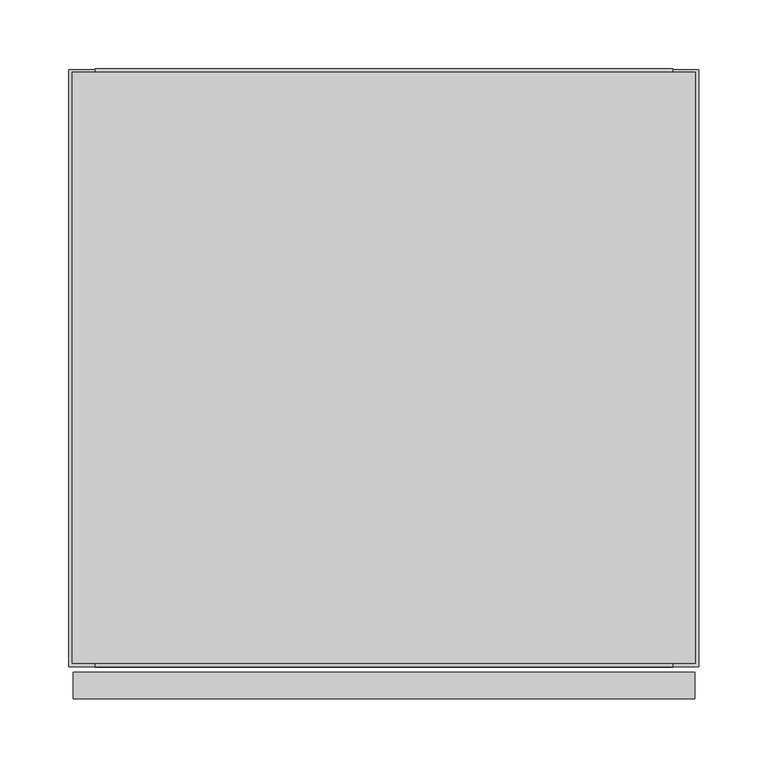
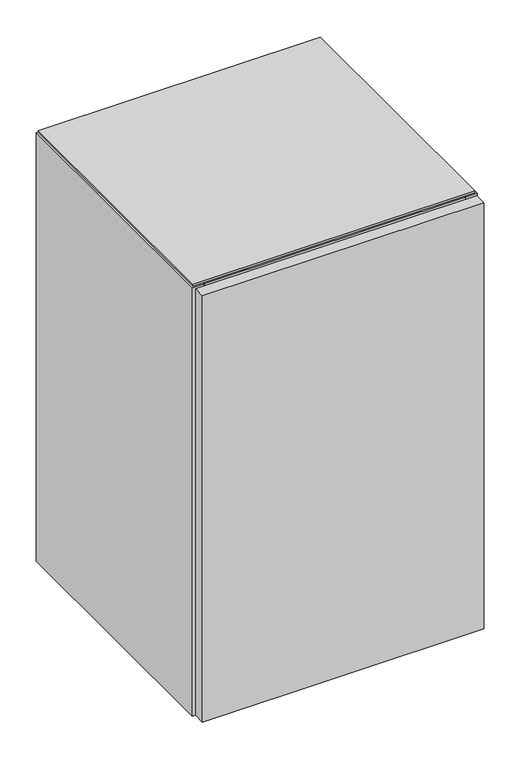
"""IFC4 building model written with IfcOpenShell, lengths in millimetres: furniture geometry, Geiger_GeigerOneCasegoods_LowStorageSingleHingedDoor : Vertical Veneer 18Wx18Dx28.75H."""

from ifc_helpers import new_model, si_unit, point, frame, origin, place, context, project, spatial, polyline, circle_curve, ellipse_curve, trimmed, outline, extrude, source, transform, mapped, element, save
from ifc_brep_helpers import plane_surface, cylinder_surface, revolved_surface, advanced_brep


def furniture_02ff0113(model_context):
    return source(origin(), model_context, "Body", "SolidModel", [
        extrude(outline(polyline([(19.0, -19.5), (438.2, -19.5), (438.2, -434.0), (19.0, -434.0), (19.0, -19.5)])), frame((0.0, 0.0, 73.2), z_axis=(0.0, 0.0, 1.0), x_axis=(1.0, 0.0, 0.0)), (0.0, 0.0, 1.0), 19.5072),
        extrude(outline(polyline([(3.0, -438.0), (454.2, -438.0), (454.2, -457.2), (3.0, -457.2), (3.0, -438.0)])), frame((0.0, 0.0, 15.7), z_axis=(0.0, 0.0, 1.0), x_axis=(1.0, 0.0, 0.0)), (0.0, 0.0, 1.0), 723.0),
        extrude(outline(polyline([(19.0, -19.5), (438.2, -19.5), (438.2, -414.5), (19.0, -414.5), (19.0, -19.5)])), frame((0.0, 0.0, 12.7), z_axis=(0.0, 0.0, 1.0), x_axis=(1.0, 0.0, 0.0)), (0.0, 0.0, 1.0), 19.5),
        extrude(outline(polyline([(454.66, -2.54), (454.66, -431.46), (2.54, -431.46), (2.54, -2.54), (454.66, -2.54)])), frame((0.0, 0.0, 739.5), z_axis=(0.0, 0.0, 1.0), x_axis=(1.0, 0.0, 0.0)), (0.0, 0.0, 1.0), 3.2766),
        extrude(outline(polyline([(19.0, -95.7), (438.2, -95.7), (438.2, -434.0), (19.0, -434.0), (19.0, -95.7)])), frame((0.0, 0.0, 720.0), z_axis=(0.0, 0.0, 1.0), x_axis=(1.0, 0.0, 0.0)), (0.0, 0.0, 1.0), 19.5),
        extrude(outline(polyline([(438.2, -19.5), (19.0, -19.5), (19.0, 0.0), (438.2, 0.0), (438.2, -19.5)])), frame((0.0, 0.0, 12.7), z_axis=(0.0, 0.0, 1.0), x_axis=(1.0, 0.0, 0.0)), (0.0, 0.0, 1.0), 726.8),
        extrude(outline(polyline([(19.0, -414.5), (438.2, -414.5), (438.2, -434.0), (19.0, -434.0), (19.0, -414.5)])), frame((0.0, 0.0, 12.7), z_axis=(0.0, 0.0, 1.0), x_axis=(1.0, 0.0, 0.0)), (0.0, 0.0, 1.0), 60.5),
        extrude(outline(polyline([(19.0, -434.0), (0.0, -434.0), (0.0, -0.5), (19.0, -0.5), (19.0, -434.0)])), frame((0.0, 0.0, 12.7), z_axis=(0.0, 0.0, 1.0), x_axis=(1.0, 0.0, 0.0)), (0.0, 0.0, 1.0), 726.8),
        extrude(outline(polyline([(457.2, -434.0), (438.2, -434.0), (438.2, -0.5), (457.2, -0.5), (457.2, -434.0)])), frame((0.0, 0.0, 12.7), z_axis=(0.0, 0.0, 1.0), x_axis=(1.0, 0.0, 0.0)), (0.0, 0.0, 1.0), 726.8),
        advanced_brep(
        [(94.0575663, -376.5165105, 0.0), (71.9424337, -376.5165105, 0.0), (83.0, -376.5165105, 0.0), (94.0575663, -376.5165105, 9.5), (71.9424337, -376.5165105, 9.5), (87.066455, -376.5165105, 9.5), (78.933545, -376.5165105, 9.5), (87.066455, -376.5165105, 12.7), (78.933545, -376.5165105, 12.7), (83.0, -376.5165105, 12.7)],
        [
            (0, 1, circle_curve(frame((83.0, -376.5165105, 0.0), z_axis=(0.0, 0.0, -1.0), x_axis=(-1.0, 0.0, 0.0)), 11.0575663)),
            (1, 2),
            (2, 0),
            (1, 0, circle_curve(frame((83.0, -376.5165105, 0.0), z_axis=(0.0, 0.0, -1.0), x_axis=(-1.0, 0.0, 0.0)), 11.0575663)),
            (0, 3, circle_curve(frame((94.0575663, -376.5165105, 4.75), z_axis=(0.0, -1.0, 0.0), x_axis=(1.0, 0.0, 0.0)), 4.75)),
            (3, 4, circle_curve(frame((83.0, -376.5165105, 9.5), z_axis=(0.0, 0.0, -1.0), x_axis=(-1.0, 0.0, 0.0)), 11.0575663)),
            (4, 1, circle_curve(frame((71.9424337, -376.5165105, 4.75), z_axis=(0.0, -1.0, 0.0), x_axis=(-1.0, 0.0, 0.0)), 4.75)),
            (4, 3, circle_curve(frame((83.0, -376.5165105, 9.5), z_axis=(0.0, 0.0, -1.0), x_axis=(-1.0, 0.0, 0.0)), 11.0575663)),
            (3, 5),
            (5, 6, circle_curve(frame((83.0, -376.5165105, 9.5), z_axis=(0.0, 0.0, -1.0), x_axis=(-1.0, 0.0, 0.0)), 4.066455)),
            (6, 4),
            (6, 5, circle_curve(frame((83.0, -376.5165105, 9.5), z_axis=(0.0, 0.0, -1.0), x_axis=(-1.0, 0.0, 0.0)), 4.066455)),
            (5, 7),
            (7, 8, circle_curve(frame((83.0, -376.5165105, 12.7), z_axis=(0.0, 0.0, -1.0), x_axis=(-1.0, 0.0, 0.0)), 4.066455)),
            (8, 6),
            (8, 7, circle_curve(frame((83.0, -376.5165105, 12.7), z_axis=(0.0, 0.0, -1.0), x_axis=(-1.0, 0.0, 0.0)), 4.066455)),
            (7, 9),
            (9, 8),
        ],
        [
            plane_surface(frame((83.0, -376.5165105, 0.0), z_axis=(0.0, 0.0, -1.0), x_axis=(-1.0, 0.0, 0.0))),
            revolved_surface(trimmed(ellipse_curve(frame((71.9424337, -376.5165105, 4.75), z_axis=(0.0, 1.0, 0.0), x_axis=(-1.0, 0.0, 0.0)), 4.75, 4.75), [point((71.9424337, -376.5165105, 0.0))], [point((71.9424337, -376.5165105, 9.5))], True, "CARTESIAN"), (83.0, -376.5165105, 0.0), (0.0, 0.0, 1.0)),
            plane_surface(frame((83.0, -376.5165105, 9.5), z_axis=(0.0, 0.0, 1.0), x_axis=(-1.0, 0.0, 0.0))),
            cylinder_surface(frame((83.0, -376.5165105, 0.0), z_axis=(0.0, 0.0, 1.0), x_axis=(-1.0, 0.0, 0.0)), 4.066455),
            plane_surface(frame((83.0, -376.5165105, 12.7), z_axis=(0.0, 0.0, 1.0), x_axis=(-1.0, 0.0, 0.0))),
        ],
        [
            (0, [[1, 2, 3]]),
            (0, [[-2, 4, -3]]),
            (1, [[-1, 5, 6, 7]]),
            (1, [[-4, -7, 8, -5]]),
            (2, [[-6, 9, 10, 11]]),
            (2, [[-8, -11, 12, -9]]),
            (3, [[-10, 13, 14, 15]]),
            (3, [[-12, -15, 16, -13]]),
            (4, [[-14, 17, 18]]),
            (4, [[-16, -18, -17]]),
        ],
    ),
        advanced_brep(
        [(94.0575663, -127.0, 0.0), (71.9424337, -127.0, 0.0), (83.0, -127.0, 0.0), (94.0575663, -127.0, 9.5), (71.9424337, -127.0, 9.5), (87.066455, -127.0, 9.5), (78.933545, -127.0, 9.5), (87.066455, -127.0, 12.7), (78.933545, -127.0, 12.7), (83.0, -127.0, 12.7)],
        [
            (0, 1, circle_curve(frame((83.0, -127.0, 0.0), z_axis=(0.0, 0.0, -1.0), x_axis=(-1.0, 0.0, 0.0)), 11.0575663)),
            (1, 2),
            (2, 0),
            (1, 0, circle_curve(frame((83.0, -127.0, 0.0), z_axis=(0.0, 0.0, -1.0), x_axis=(-1.0, 0.0, 0.0)), 11.0575663)),
            (0, 3, circle_curve(frame((94.0575663, -127.0, 4.75), z_axis=(0.0, -1.0, 0.0), x_axis=(1.0, 0.0, 0.0)), 4.75)),
            (3, 4, circle_curve(frame((83.0, -127.0, 9.5), z_axis=(0.0, 0.0, -1.0), x_axis=(-1.0, 0.0, 0.0)), 11.0575663)),
            (4, 1, circle_curve(frame((71.9424337, -127.0, 4.75), z_axis=(0.0, -1.0, 0.0), x_axis=(-1.0, 0.0, 0.0)), 4.75)),
            (4, 3, circle_curve(frame((83.0, -127.0, 9.5), z_axis=(0.0, 0.0, -1.0), x_axis=(-1.0, 0.0, 0.0)), 11.0575663)),
            (3, 5),
            (5, 6, circle_curve(frame((83.0, -127.0, 9.5), z_axis=(0.0, 0.0, -1.0), x_axis=(-1.0, 0.0, 0.0)), 4.066455)),
            (6, 4),
            (6, 5, circle_curve(frame((83.0, -127.0, 9.5), z_axis=(0.0, 0.0, -1.0), x_axis=(-1.0, 0.0, 0.0)), 4.066455)),
            (5, 7),
            (7, 8, circle_curve(frame((83.0, -127.0, 12.7), z_axis=(0.0, 0.0, -1.0), x_axis=(-1.0, 0.0, 0.0)), 4.066455)),
            (8, 6),
            (8, 7, circle_curve(frame((83.0, -127.0, 12.7), z_axis=(0.0, 0.0, -1.0), x_axis=(-1.0, 0.0, 0.0)), 4.066455)),
            (7, 9),
            (9, 8),
        ],
        [
            plane_surface(frame((83.0, -127.0, 0.0), z_axis=(0.0, 0.0, -1.0), x_axis=(-1.0, 0.0, 0.0))),
            revolved_surface(trimmed(ellipse_curve(frame((71.9424337, -127.0, 4.75), z_axis=(0.0, 1.0, 0.0), x_axis=(-1.0, 0.0, 0.0)), 4.75, 4.75), [point((71.9424337, -127.0, 0.0))], [point((71.9424337, -127.0, 9.5))], True, "CARTESIAN"), (83.0, -127.0, 0.0), (0.0, 0.0, 1.0)),
            plane_surface(frame((83.0, -127.0, 9.5), z_axis=(0.0, 0.0, 1.0), x_axis=(-1.0, 0.0, 0.0))),
            cylinder_surface(frame((83.0, -127.0, 0.0), z_axis=(0.0, 0.0, 1.0), x_axis=(-1.0, 0.0, 0.0)), 4.066455),
            plane_surface(frame((83.0, -127.0, 12.7), z_axis=(0.0, 0.0, 1.0), x_axis=(-1.0, 0.0, 0.0))),
        ],
        [
            (0, [[1, 2, 3]]),
            (0, [[-2, 4, -3]]),
            (1, [[-1, 5, 6, 7]]),
            (1, [[-4, -7, 8, -5]]),
            (2, [[-6, 9, 10, 11]]),
            (2, [[-8, -11, 12, -9]]),
            (3, [[-10, 13, 14, 15]]),
            (3, [[-12, -15, 16, -13]]),
            (4, [[-14, 17, 18]]),
            (4, [[-16, -18, -17]]),
        ],
    ),
        advanced_brep(
        [(374.2, -376.5165105, 0.0), (385.2575663, -376.5165105, 0.0), (363.1424337, -376.5165105, 0.0), (385.2575663, -376.5165105, 9.5), (363.1424337, -376.5165105, 9.5), (378.266455, -376.5165105, 9.5), (370.133545, -376.5165105, 9.5), (378.266455, -376.5165105, 12.7), (370.133545, -376.5165105, 12.7), (374.2, -376.5165105, 12.7)],
        [
            (0, 1),
            (1, 2, circle_curve(frame((374.2, -376.5165105, 0.0), z_axis=(0.0, 0.0, -1.0), x_axis=(1.0, 0.0, 0.0)), 11.0575663)),
            (2, 0),
            (2, 1, circle_curve(frame((374.2, -376.5165105, 0.0), z_axis=(0.0, 0.0, -1.0), x_axis=(1.0, 0.0, 0.0)), 11.0575663)),
            (1, 3, circle_curve(frame((385.2575663, -376.5165105, 4.75), z_axis=(0.0, -1.0, 0.0), x_axis=(-1.0, 0.0, 0.0)), 4.75)),
            (3, 4, circle_curve(frame((374.2, -376.5165105, 9.5), z_axis=(0.0, 0.0, -1.0), x_axis=(1.0, 0.0, 0.0)), 11.0575663)),
            (4, 2, circle_curve(frame((363.1424337, -376.5165105, 4.75), z_axis=(0.0, -1.0, 0.0), x_axis=(1.0, 0.0, 0.0)), 4.75)),
            (4, 3, circle_curve(frame((374.2, -376.5165105, 9.5), z_axis=(0.0, 0.0, -1.0), x_axis=(1.0, 0.0, 0.0)), 11.0575663)),
            (3, 5),
            (5, 6, circle_curve(frame((374.2, -376.5165105, 9.5), z_axis=(0.0, 0.0, -1.0), x_axis=(1.0, 0.0, 0.0)), 4.066455)),
            (6, 4),
            (6, 5, circle_curve(frame((374.2, -376.5165105, 9.5), z_axis=(0.0, 0.0, -1.0), x_axis=(1.0, 0.0, 0.0)), 4.066455)),
            (5, 7),
            (7, 8, circle_curve(frame((374.2, -376.5165105, 12.7), z_axis=(0.0, 0.0, -1.0), x_axis=(1.0, 0.0, 0.0)), 4.066455)),
            (8, 6),
            (8, 7, circle_curve(frame((374.2, -376.5165105, 12.7), z_axis=(0.0, 0.0, -1.0), x_axis=(1.0, 0.0, 0.0)), 4.066455)),
            (7, 9),
            (9, 8),
        ],
        [
            plane_surface(frame((374.2, -376.5165105, 0.0), z_axis=(0.0, 0.0, -1.0), x_axis=(1.0, 0.0, 0.0))),
            revolved_surface(trimmed(ellipse_curve(frame((385.2575663, -376.5165105, 4.75), z_axis=(0.0, 1.0, 0.0), x_axis=(-1.0, 0.0, 0.0)), 4.75, 4.75), [point((385.2575663, -376.5165105, 9.5))], [point((385.2575663, -376.5165105, 0.0))], True, "CARTESIAN"), (374.2, -376.5165105, 0.0), (0.0, 0.0, -1.0)),
            plane_surface(frame((374.2, -376.5165105, 9.5), z_axis=(0.0, 0.0, 1.0), x_axis=(1.0, 0.0, 0.0))),
            cylinder_surface(frame((374.2, -376.5165105, 0.0), z_axis=(0.0, 0.0, -1.0), x_axis=(1.0, 0.0, 0.0)), 4.066455),
            plane_surface(frame((374.2, -376.5165105, 12.7), z_axis=(0.0, 0.0, 1.0), x_axis=(1.0, 0.0, 0.0))),
        ],
        [
            (0, [[1, 2, 3]]),
            (0, [[-1, -3, 4]]),
            (1, [[-2, 5, 6, 7]]),
            (1, [[-4, -7, 8, -5]]),
            (2, [[-6, 9, 10, 11]]),
            (2, [[-8, -11, 12, -9]]),
            (3, [[-10, 13, 14, 15]]),
            (3, [[-12, -15, 16, -13]]),
            (4, [[-14, 17, 18]]),
            (4, [[-16, -18, -17]]),
        ],
    ),
        advanced_brep(
        [(374.2, -127.0, 0.0), (385.2575663, -127.0, 0.0), (363.1424337, -127.0, 0.0), (385.2575663, -127.0, 9.5), (363.1424337, -127.0, 9.5), (378.266455, -127.0, 9.5), (370.133545, -127.0, 9.5), (378.266455, -127.0, 12.7), (370.133545, -127.0, 12.7), (374.2, -127.0, 12.7)],
        [
            (0, 1),
            (1, 2, circle_curve(frame((374.2, -127.0, 0.0), z_axis=(0.0, 0.0, -1.0), x_axis=(1.0, 0.0, 0.0)), 11.0575663)),
            (2, 0),
            (2, 1, circle_curve(frame((374.2, -127.0, 0.0), z_axis=(0.0, 0.0, -1.0), x_axis=(1.0, 0.0, 0.0)), 11.0575663)),
            (1, 3, circle_curve(frame((385.2575663, -127.0, 4.75), z_axis=(0.0, -1.0, 0.0), x_axis=(-1.0, 0.0, 0.0)), 4.75)),
            (3, 4, circle_curve(frame((374.2, -127.0, 9.5), z_axis=(0.0, 0.0, -1.0), x_axis=(1.0, 0.0, 0.0)), 11.0575663)),
            (4, 2, circle_curve(frame((363.1424337, -127.0, 4.75), z_axis=(0.0, -1.0, 0.0), x_axis=(1.0, 0.0, 0.0)), 4.75)),
            (4, 3, circle_curve(frame((374.2, -127.0, 9.5), z_axis=(0.0, 0.0, -1.0), x_axis=(1.0, 0.0, 0.0)), 11.0575663)),
            (3, 5),
            (5, 6, circle_curve(frame((374.2, -127.0, 9.5), z_axis=(0.0, 0.0, -1.0), x_axis=(1.0, 0.0, 0.0)), 4.066455)),
            (6, 4),
            (6, 5, circle_curve(frame((374.2, -127.0, 9.5), z_axis=(0.0, 0.0, -1.0), x_axis=(1.0, 0.0, 0.0)), 4.066455)),
            (5, 7),
            (7, 8, circle_curve(frame((374.2, -127.0, 12.7), z_axis=(0.0, 0.0, -1.0), x_axis=(1.0, 0.0, 0.0)), 4.066455)),
            (8, 6),
            (8, 7, circle_curve(frame((374.2, -127.0, 12.7), z_axis=(0.0, 0.0, -1.0), x_axis=(1.0, 0.0, 0.0)), 4.066455)),
            (7, 9),
            (9, 8),
        ],
        [
            plane_surface(frame((374.2, -127.0, 0.0), z_axis=(0.0, 0.0, -1.0), x_axis=(1.0, 0.0, 0.0))),
            revolved_surface(trimmed(ellipse_curve(frame((385.2575663, -127.0, 4.75), z_axis=(0.0, 1.0, 0.0), x_axis=(-1.0, 0.0, 0.0)), 4.75, 4.75), [point((385.2575663, -127.0, 9.5))], [point((385.2575663, -127.0, 0.0))], True, "CARTESIAN"), (374.2, -127.0, 0.0), (0.0, 0.0, -1.0)),
            plane_surface(frame((374.2, -127.0, 9.5), z_axis=(0.0, 0.0, 1.0), x_axis=(1.0, 0.0, 0.0))),
            cylinder_surface(frame((374.2, -127.0, 0.0), z_axis=(0.0, 0.0, -1.0), x_axis=(1.0, 0.0, 0.0)), 4.066455),
            plane_surface(frame((374.2, -127.0, 12.7), z_axis=(0.0, 0.0, 1.0), x_axis=(1.0, 0.0, 0.0))),
        ],
        [
            (0, [[1, 2, 3]]),
            (0, [[-1, -3, 4]]),
            (1, [[-2, 5, 6, 7]]),
            (1, [[-4, -7, 8, -5]]),
            (2, [[-6, 9, 10, 11]]),
            (2, [[-8, -11, 12, -9]]),
            (3, [[-10, 13, 14, 15]]),
            (3, [[-12, -15, 16, -13]]),
            (4, [[-14, 17, 18]]),
            (4, [[-16, -18, -17]]),
        ],
    ),
    ])


if __name__ == "__main__":
    model = new_model("IFC4")
    model_context = context("Model", 3, world=origin())
    ifc_project = project(units=[si_unit("LENGTHUNIT", "METRE", prefix="MILLI")], contexts=[model_context])
    site = spatial("IfcSite", under=ifc_project)
    building = spatial("IfcBuilding", under=site)
    placement = place(None, origin())
    furniture_shape = furniture_02ff0113(model_context)
    element("IfcFurniture", 1, ObjectType="Geiger_GeigerOneCasegoods_LowStorageSingleHingedDoor : Vertical Veneer 18Wx18Dx28.75H", at=placement, inside=building, context=model_context, shape_type="MappedRepresentation", body=[
        mapped(furniture_shape, transform((0.0, 0.0, 0.0), x_axis=(1.0, 0.0, 0.0), y_axis=(0.0, 1.0, 0.0), z_axis=(0.0, 0.0, 1.0))),
    ])
    save(model, "model.ifc")
